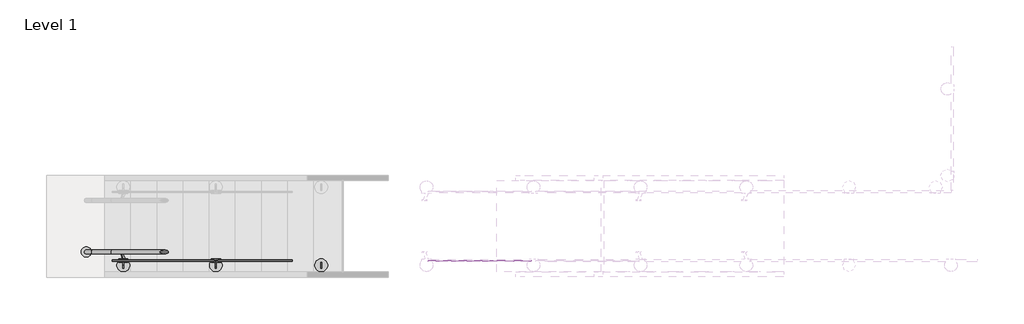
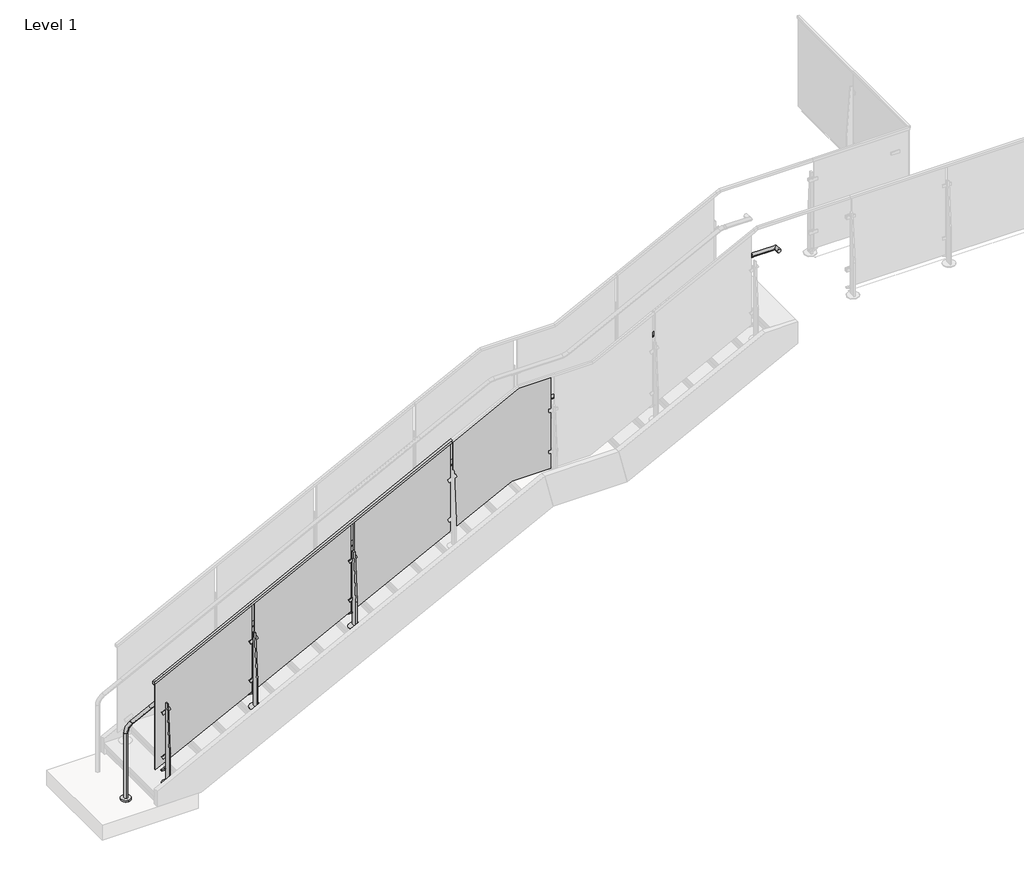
# One storey, part 5 of 37: 2 railings.
"""IFC4 building model written with IfcOpenShell, lengths in millimetres."""

import ifcopenshell
import ifcopenshell.guid

model = None  # the IFC model being written
_history = None  # IfcOwnerHistory: only IFC2X3 demands one
_inside = {}  # id of a spatial element -> (the spatial element, [elements in it])
_under = {}  # id of a project, library or spatial element -> (it, [spatial elements below it])
_declared = {}  # id of a project -> (the project, [libraries it declares])
_typed = {}  # id of a type object -> (the type object, [elements of that type])
_made_of = {}  # id of a material, layer set ... -> (it, [elements and type objects made of it])


def new_model(schema):
    """Start an empty IFC model of exactly this schema.

    Asked for "IFC4X3", IfcOpenShell would pick the latest addendum, in which some entities
    have other attributes; the version numbers below select the first issue.
    IFC2X3 requires an IfcOwnerHistory on every rooted entity: one is made here for all.
    """
    global model, _history
    if schema == "IFC4X3":
        model = ifcopenshell.file(schema_version=(4, 3, 0, 0))
    else:
        model = ifcopenshell.file(schema=schema)
    _inside.clear()
    _under.clear()
    _declared.clear()
    _typed.clear()
    _made_of.clear()
    _history = None
    if model.schema == "IFC2X3":
        org = make("IfcOrganization", Name="unknown")
        user = make(
            "IfcPersonAndOrganization",
            ThePerson=make("IfcPerson", FamilyName="unknown"),
            TheOrganization=org,
        )
        app = make(
            "IfcApplication",
            ApplicationDeveloper=org,
            Version="unknown",
            ApplicationFullName="unknown",
            ApplicationIdentifier="unknown",
        )
        _history = make(
            "IfcOwnerHistory",
            OwningUser=user,
            OwningApplication=app,
            ChangeAction="ADDED",
            CreationDate=0,
        )
    return model


def make(cls, **values):
    """One entity of the class cls with the attributes given. An attribute that is None is left unset."""
    return model.create_entity(
        cls, **{name: value for name, value in values.items() if value is not None}
    )


def rooted(cls, **values):
    """An entity with a GlobalId (a new one), such as an element, a storey or a relation."""
    return make(cls, GlobalId=ifcopenshell.guid.new(), OwnerHistory=_history, **values)


def si_unit(unit_type, name, prefix=None):
    """IfcSIUnit, for example si_unit("LENGTHUNIT", "METRE", prefix="MILLI")."""
    return make("IfcSIUnit", UnitType=unit_type, Prefix=prefix, Name=name)


def assignment(units):
    """IfcUnitAssignment: the units of a project."""
    return None if units is None else make("IfcUnitAssignment", Units=units)


def point(xyz):
    """IfcCartesianPoint."""
    return None if xyz is None else make("IfcCartesianPoint", Coordinates=xyz)


def direction(xyz):
    """IfcDirection."""
    return None if xyz is None else make("IfcDirection", DirectionRatios=xyz)


def frame(location, z_axis=None, x_axis=None):
    """IfcAxis2Placement3D, a coordinate frame: its origin and axes. An axis left out is left unset."""
    return make(
        "IfcAxis2Placement3D",
        Location=point(location),
        Axis=direction(z_axis),
        RefDirection=direction(x_axis),
    )


def frame_2d(location, x_axis=None):
    """IfcAxis2Placement2D, a coordinate frame in the plane: its origin and x axis."""
    return make(
        "IfcAxis2Placement2D", Location=point(location), RefDirection=direction(x_axis)
    )


def origin():
    """The frame at (0, 0, 0) with its axes left unset."""
    return frame((0.0, 0.0, 0.0))


def origin_with_axes():
    """The frame at (0, 0, 0) with the z axis (0, 0, 1) and the x axis (1, 0, 0) written out."""
    return frame((0.0, 0.0, 0.0), z_axis=(0.0, 0.0, 1.0), x_axis=(1.0, 0.0, 0.0))


def place(relative_to, where):
    """IfcLocalPlacement: puts the frame where relative to a parent placement (None: the world)."""
    return make(
        "IfcLocalPlacement", PlacementRelTo=relative_to, RelativePlacement=where
    )


def context(
    kind, dimensions, precision=None, world=None, true_north=None, identifier=None
):
    """IfcGeometricRepresentationContext, for example the 3D "Model" context."""
    return make(
        "IfcGeometricRepresentationContext",
        ContextIdentifier=identifier,
        ContextType=kind,
        CoordinateSpaceDimension=dimensions,
        Precision=precision,
        WorldCoordinateSystem=world,
        TrueNorth=true_north,
    )


def project(units=None, contexts=None):
    """IfcProject with its units and contexts."""
    return rooted(
        "IfcProject",
        Name="project",
        RepresentationContexts=contexts,
        UnitsInContext=assignment(units),
    )


def spatial(cls, under=None, at=None, **own):
    """A site, building, storey or space (cls), placed at a placement, below another one or the project."""
    s = rooted(cls, ObjectPlacement=at, **own)
    if under is not None:
        _under.setdefault(under.id(), (under, []))[1].append(s)
    return s


def polyline(points):
    """IfcPolyline through the points."""
    return make("IfcPolyline", Points=[point(p) for p in points])


def circle_curve(where, radius):
    """IfcCircle in the frame where."""
    return make("IfcCircle", Position=where, Radius=radius)


def ellipse_curve(where, semi_axis1, semi_axis2):
    """IfcEllipse in the frame where."""
    return make(
        "IfcEllipse", Position=where, SemiAxis1=semi_axis1, SemiAxis2=semi_axis2
    )


def trimmed(basis, trim1, trim2, sense, master):
    """IfcTrimmedCurve: the piece of a basis curve between two trims."""
    return make(
        "IfcTrimmedCurve",
        BasisCurve=basis,
        Trim1=trim1,
        Trim2=trim2,
        SenseAgreement=sense,
        MasterRepresentation=master,
    )


def segment(curve, same_sense, transition):
    """IfcCompositeCurveSegment."""
    return make(
        "IfcCompositeCurveSegment",
        Transition=transition,
        SameSense=same_sense,
        ParentCurve=curve,
    )


def composite_curve(segments, self_intersect=None):
    """IfcCompositeCurve: segments joined end to end."""
    return make("IfcCompositeCurve", Segments=segments, SelfIntersect=self_intersect)


def outline(outer, holes=None, kind="AREA"):
    """IfcArbitraryClosedProfileDef: a profile drawn as a closed curve; with holes, ...WithVoids."""
    if holes is None:
        return make("IfcArbitraryClosedProfileDef", ProfileType=kind, OuterCurve=outer)
    return make(
        "IfcArbitraryProfileDefWithVoids",
        ProfileType=kind,
        OuterCurve=outer,
        InnerCurves=holes,
    )


def extrude(swept, where, along, depth):
    """IfcExtrudedAreaSolid: the profile swept, set in the frame where, extruded along a direction by depth."""
    return make(
        "IfcExtrudedAreaSolid",
        SweptArea=swept,
        Position=where,
        ExtrudedDirection=direction(along),
        Depth=depth,
    )


def faces_of(points, faces, orient=None, outer=None):
    """IfcFace entities. A face is a list of loops; a loop is a list of indices into points, from 0.

    orient and outer hold one flag for each loop. By default every Orientation is true, the
    first loop of a face is its IfcFaceOuterBound and the others are IfcFaceBound.
    """
    made = []
    for i, loops in enumerate(faces):
        bounds = []
        for j, loop in enumerate(loops):
            is_outer = j == 0 if outer is None else outer[i][j]
            bounds.append(
                make(
                    "IfcFaceOuterBound" if is_outer else "IfcFaceBound",
                    Bound=make("IfcPolyLoop", Polygon=[points[k] for k in loop]),
                    Orientation=True if orient is None else orient[i][j],
                )
            )
        made.append(make("IfcFace", Bounds=bounds))
    return made


def faceted_brep(points, faces, orient=None, outer=None, voids=None):
    """IfcFacetedBrep: a solid bounded by flat faces; with voids (closed shells), ...WithVoids."""
    shared = [point(p) for p in points]
    hull = make("IfcClosedShell", CfsFaces=faces_of(shared, faces, orient, outer))
    if voids is None:
        return make("IfcFacetedBrep", Outer=hull)
    return make(
        "IfcFacetedBrepWithVoids",
        Outer=hull,
        Voids=[
            make(cls, CfsFaces=faces_of(shared, fs, o, b)) for cls, fs, o, b in voids
        ],
    )


def shape(context_of_items, identifier, shape_type, items):
    """IfcShapeRepresentation: the items that make up one representation, for example the "Body"."""
    return make(
        "IfcShapeRepresentation",
        ContextOfItems=context_of_items,
        RepresentationIdentifier=identifier,
        RepresentationType=shape_type,
        Items=items,
    )


def source(mapping_origin, context_of_items, identifier, shape_type, items):
    """IfcRepresentationMap: a shape defined once, which mapped items show again and again."""
    return make(
        "IfcRepresentationMap",
        MappingOrigin=mapping_origin,
        MappedRepresentation=shape(context_of_items, identifier, shape_type, items),
    )


def transform(
    local_origin,
    x_axis=None,
    y_axis=None,
    z_axis=None,
    scale=None,
    scale2=None,
    scale3=None,
    uniform=True,
):
    """IfcCartesianTransformationOperator3D, or its non-uniform kind. x_axis, y_axis, z_axis: its Axis1, 2, 3."""
    if uniform:
        return make(
            "IfcCartesianTransformationOperator3D",
            Axis1=direction(x_axis),
            Axis2=direction(y_axis),
            LocalOrigin=point(local_origin),
            Scale=scale,
            Axis3=direction(z_axis),
        )
    return make(
        "IfcCartesianTransformationOperator3DnonUniform",
        Axis1=direction(x_axis),
        Axis2=direction(y_axis),
        LocalOrigin=point(local_origin),
        Scale=scale,
        Axis3=direction(z_axis),
        Scale2=scale2,
        Scale3=scale3,
    )


def mapped(mapping_source, mapping_target):
    """IfcMappedItem: shows the shape of a source again, moved by a transform."""
    return make(
        "IfcMappedItem", MappingSource=mapping_source, MappingTarget=mapping_target
    )


def made_of(thing, what):
    """Note that an element or type object is made of a material, layer set ...; save() writes the relation."""
    if what is not None:
        _made_of.setdefault(what.id(), (what, []))[1].append(thing)
    return thing


def element(
    cls,
    number,
    at=None,
    inside=None,
    cuts=None,
    type_object=None,
    material=None,
    context=None,
    identifier="Body",
    shape_type=None,
    held_by="IfcProductDefinitionShape",
    body=None,
    shapes=None,
    **own,
):
    """One element of the class cls, such as IfcWall. Its Tag is "e" and its number.

    at: its placement. inside: the storey or other place that contains it. cuts: it is an
    opening in that element (IfcRelVoidsElement). A single representation is given by context,
    identifier, shape_type and body (its items); several are given by shapes. held_by: the class
    of the entity that holds the representations. save() writes the other relations.
    """
    e = rooted(cls, Tag="e%d" % number, ObjectPlacement=at, **own)
    if body is not None:
        shapes = [shape(context, identifier, shape_type, body)]
    if shapes is not None:
        e.Representation = make(held_by, Representations=shapes)
    if inside is not None:
        _inside.setdefault(inside.id(), (inside, []))[1].append(e)
    if cuts is not None:
        rooted(
            "IfcRelVoidsElement", RelatingBuildingElement=cuts, RelatedOpeningElement=e
        )
    if type_object is not None:
        _typed.setdefault(type_object.id(), (type_object, []))[1].append(e)
    return made_of(e, material)


def aggregate(whole, parts):
    """IfcRelAggregates: a whole, such as a stair, and the parts it consists of."""
    return rooted("IfcRelAggregates", RelatingObject=whole, RelatedObjects=parts)


def save(model, path):
    """Write the relations noted so far, then the file.

    IfcRelAggregates (storeys below a building ...), IfcRelContainedInSpatialStructure (elements
    in a storey), IfcRelDefinesByType, IfcRelAssociatesMaterial and IfcRelDeclares: one each for
    every whole, place, type object, material and project.
    """
    for whole, parts in _under.values():
        aggregate(whole, parts)
    for where, things in _inside.values():
        rooted(
            "IfcRelContainedInSpatialStructure",
            RelatedElements=things,
            RelatingStructure=where,
        )
    for kind, things in _typed.values():
        rooted("IfcRelDefinesByType", RelatedObjects=things, RelatingType=kind)
    for what, things in _made_of.values():
        rooted("IfcRelAssociatesMaterial", RelatedObjects=things, RelatingMaterial=what)
    for by, libraries in _declared.values():
        rooted("IfcRelDeclares", RelatingContext=by, RelatedDefinitions=libraries)
    model.write(path)


def plane_surface(at):
    """IfcPlane: the flat surface through the origin of the frame at, square to its z axis."""
    return make("IfcPlane", Position=at)


def cylinder_surface(at, radius):
    """IfcCylindricalSurface: all points at the distance radius from the z axis of the frame at."""
    return make("IfcCylindricalSurface", Position=at, Radius=radius)


def revolved_surface(curve, axis_point, axis_direction):
    """IfcSurfaceOfRevolution: the curve turned about the line through axis_point along axis_direction."""
    return make(
        "IfcSurfaceOfRevolution",
        SweptCurve=make("IfcArbitraryOpenProfileDef", ProfileType="CURVE", Curve=curve),
        AxisPosition=make("IfcAxis1Placement", Location=point(axis_point), Axis=direction(axis_direction)),
    )


def advanced_brep(points, edges, surfaces, faces):
    """IfcAdvancedBrep: a solid bounded by faces that lie on surfaces and meet in shared edges.

    An edge is (start, end): straight between two places in points (the first is 0);
    or (start, end, curve); or (start, end, curve, False) where it runs against its curve.
    A face is (place in surfaces, loops), or (place, loops, False) where it looks against
    its surface's normal. A loop lists edges by number (the first is 1), with a minus sign
    where the edge is run from its end to its start. The first loop is the outer one.
    """
    corners = [point(p) for p in points]
    vertices = [make("IfcVertexPoint", VertexGeometry=c) for c in corners]
    made = []
    for start, end, *more in edges:
        made.append(
            make(
                "IfcEdgeCurve",
                EdgeStart=vertices[start],
                EdgeEnd=vertices[end],
                EdgeGeometry=more[0] if more else make("IfcPolyline", Points=[corners[start], corners[end]]),
                SameSense=more[1] if len(more) > 1 else True,
            )
        )
    hull = []
    for where, loops, *sense in faces:
        bounds = []
        for j, loop in enumerate(loops):
            ring = [make("IfcOrientedEdge", EdgeElement=made[abs(k) - 1], Orientation=k > 0) for k in loop]
            bounds.append(
                make(
                    "IfcFaceOuterBound" if j == 0 else "IfcFaceBound",
                    Bound=make("IfcEdgeLoop", EdgeList=ring),
                    Orientation=True,
                )
            )
        hull.append(make("IfcAdvancedFace", Bounds=bounds, FaceSurface=surfaces[where], SameSense=sense[0] if sense else True))
    return make("IfcAdvancedBrep", Outer=make("IfcClosedShell", CfsFaces=hull))


def baluster_landing_panel_viva_solo_lower_standard_glass_98f4e7d3(model_context):
    return source(origin(), model_context, "Body", "SweptSolid", [
        extrude(outline(polyline([(-680.085, 1112.52), (5.0108793, 763.7473897), (5.0108793, -237.7228611), (-611.6294537, 76.2), (-1025.525, 76.2), (-1025.525, 1112.52), (-680.085, 1112.52)])), frame((33.3375, 0.0, 0.0), z_axis=(1.0, 0.0, 0.0), x_axis=(0.0, 1.0, 0.0)), (0.0, 0.0, 1.0), 9.525),
    ])


model = new_model("IFC4")

# Units and contexts
model_context = context("Model", 3, world=origin())
ifc_project = project(units=[si_unit("LENGTHUNIT", "METRE", prefix="MILLI")], contexts=[model_context])

# Site, building, storey
site = spatial("IfcSite", under=ifc_project)
building = spatial("IfcBuilding", under=site)
storey = spatial("IfcBuildingStorey", under=building, Name="Level 1", Elevation=0.0)

# Railings
placement = place(None, origin())
baluster_landing_panel_viva_solo_lower_standard_glass_shape = baluster_landing_panel_viva_solo_lower_standard_glass_98f4e7d3(model_context)
element("IfcRailing", 1, ObjectType="Baluster-Landing-Panel-VIVA-SOLO-Lower : Standard_Glass", at=placement, inside=storey, context=model_context, shape_type="MappedRepresentation", body=[
    mapped(baluster_landing_panel_viva_solo_lower_standard_glass_shape, transform((5248.4872811, -5623.9528686, 2120.3478261), x_axis=(0.0, 1.0, 0.0), y_axis=(-1.0, 0.0, 0.0), z_axis=(0.0, 0.0, 1.0))),
])
element("IfcRailing", 2, ObjectType="VIVA-SOLO-Glass-Core Mount-Stair_Right_Lower", at=placement, inside=storey, context=model_context, shape_type="SolidModel", body=[
    advanced_brep(
    [(8446.9515313, -5517.5903686, 3758.1697243), (8446.9515313, -5479.4903686, 3758.1697243), (8720.0015313, -5479.4903686, 3758.1697243), (8681.9015313, -5517.5903686, 3758.1697243), (8681.9015313, -5562.0403686, 3758.1697243), (8720.0015313, -5562.0403686, 3758.1697243)],
    [
        (0, 1, circle_curve(frame((8446.9515313, -5498.5403686, 3758.1697243), z_axis=(-1.0, 0.0, 0.0), x_axis=(0.0, 1.0, 0.0)), 19.05)),
        (1, 0, circle_curve(frame((8446.9515313, -5498.5403686, 3758.1697243), z_axis=(-1.0, 0.0, 0.0), x_axis=(0.0, 1.0, 0.0)), 19.05)),
        (1, 2),
        (2, 3, ellipse_curve(frame((8700.9515313, -5498.5403686, 3758.1697243), z_axis=(-0.7071067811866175, 0.7071067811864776, 0.0), x_axis=(-0.7071067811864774, -0.7071067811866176, 0.0)), 26.9407684, 19.05)),
        (3, 0),
        (3, 2, ellipse_curve(frame((8700.9515313, -5498.5403686, 3758.1697243), z_axis=(-0.7071067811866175, 0.7071067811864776, 0.0), x_axis=(-0.7071067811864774, -0.7071067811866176, 0.0)), 26.9407684, 19.05)),
        (4, 5, circle_curve(frame((8700.9515313, -5562.0403686, 3758.1697243), z_axis=(0.0, -1.0, 0.0), x_axis=(1.0, 0.0, 0.0)), 19.05)),
        (5, 4, circle_curve(frame((8700.9515313, -5562.0403686, 3758.1697243), z_axis=(0.0, -1.0, 0.0), x_axis=(1.0, 0.0, 0.0)), 19.05)),
        (2, 5),
        (4, 3),
    ],
    [
        plane_surface(frame((8446.9515313, -5498.5403686, 3758.1697243), z_axis=(-1.0, 0.0, 0.0), x_axis=(0.0, 0.0, 1.0))),
        cylinder_surface(frame((8446.9515313, -5498.5403686, 3758.1697243), z_axis=(-1.0, 0.0, 0.0), x_axis=(0.0, 1.0, 0.0)), 19.05),
        plane_surface(frame((8700.9515313, -5562.0403686, 3758.1697243), z_axis=(0.0, -1.0, 0.0), x_axis=(0.0, 0.0, 1.0))),
        cylinder_surface(frame((8700.9515313, -5498.5403686, 3758.1697243), z_axis=(0.0, 1.0, 0.0), x_axis=(1.0, 0.0, 0.0)), 19.05),
    ],
    [
        (0, [[1, 2]]),
        (1, [[-2, 3, 4, 5]]),
        (1, [[-1, -5, 6, -3]]),
        (2, [[7, 8]]),
        (3, [[-4, 9, -7, 10]]),
        (3, [[-6, -10, -8, -9]]),
    ],
),
    extrude(outline(composite_curve([segment(trimmed(circle_curve(frame_2d((1837.6886407, -5498.5403686)), 50.8), [point((1837.6886407, -5447.7403686))], [point((1837.6886407, -5549.3403686))], False, "CARTESIAN"), True, "CONTINUOUS"), segment(trimmed(circle_curve(frame_2d((1837.6886407, -5498.5403686)), 50.8), [point((1837.6886407, -5549.3403686))], [point((1837.6886407, -5447.7403686))], False, "CARTESIAN"), True, "CONTINUOUS")], self_intersect=False)), origin_with_axes(), (0.0, 0.0, 1.0), 19.05),
    advanced_brep(
    [(1837.6886407, -5517.5903686, 19.05), (1837.6886407, -5479.4903686, 19.05), (1837.6886407, -5517.5903686, 742.5735715), (1837.6886407, -5479.4903686, 742.5735715), (1893.1999897, -5479.4903686, 833.1185672), (1893.1999897, -5517.5903686, 833.1185672), (2087.6302628, -5517.5903686, 932.0862566), (2087.6302628, -5479.4903686, 932.0862566), (5237.2302628, -5517.5903686, 2535.2760764), (5237.2302628, -5479.4903686, 2535.2760764), (6015.6337944, -5479.4903686, 2919.0894504), (6015.6337944, -5517.5903686, 2919.0894504), (6738.8046315, -5517.5903686, 2919.0894504), (6738.8046315, -5479.4903686, 2919.0894504), (6802.1765267, -5479.4903686, 2934.2900813), (6802.1765267, -5517.5903686, 2934.2900813), (8399.0382648, -5517.5903686, 3747.11472), (8399.0382648, -5479.4903686, 3747.11472), (8445.1269158, -5479.4903686, 3758.1697243), (8445.1269158, -5517.5903686, 3758.1697243), (8446.9515313, -5517.5903686, 3758.1697243), (8446.9515313, -5479.4903686, 3758.1697243), (5969.5451433, -5517.5903686, 2908.0344461), (5969.5451433, -5479.4903686, 2908.0344461)],
    [
        (0, 1, circle_curve(frame((1837.6886407, -5498.5403686, 19.05), z_axis=(0.0, 0.0, -1.0), x_axis=(0.0, 1.0, 0.0)), 19.05)),
        (1, 0, circle_curve(frame((1837.6886407, -5498.5403686, 19.05), z_axis=(0.0, 0.0, -1.0), x_axis=(0.0, 1.0, 0.0)), 19.05)),
        (0, 2),
        (2, 3, circle_curve(frame((1837.6886407, -5498.5403686, 742.5735715), z_axis=(0.0, 0.0, -1.0), x_axis=(0.0, 1.0, 0.0)), 19.05)),
        (3, 1),
        (3, 2, circle_curve(frame((1837.6886407, -5498.5403686, 742.5735715), z_axis=(0.0, 0.0, -1.0), x_axis=(0.0, 1.0, 0.0)), 19.05)),
        (4, 3, circle_curve(frame((1939.2886407, -5479.4903686, 742.5735715), z_axis=(0.0, -1.0, 0.0), x_axis=(-1.0, 0.0, 0.0)), 101.6)),
        (2, 5, circle_curve(frame((1939.2886407, -5517.5903686, 742.5735715), z_axis=(0.0, 1.0, 0.0), x_axis=(-1.0, 0.0, 0.0)), 101.6)),
        (5, 4, circle_curve(frame((1893.1999897, -5498.5403686, 833.1185672), z_axis=(-0.8911909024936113, 0.0, -0.45362845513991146), x_axis=(0.0, 1.0, 0.0)), 19.05)),
        (4, 5, circle_curve(frame((1893.1999897, -5498.5403686, 833.1185672), z_axis=(-0.8911909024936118, 0.0, -0.45362845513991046), x_axis=(0.0, 1.0, 0.0)), 19.05)),
        (5, 6),
        (6, 7, circle_curve(frame((2087.6302628, -5498.5403686, 932.0862566), z_axis=(-0.891190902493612, 0.0, -0.4536284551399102), x_axis=(0.0, 1.0, 0.0)), 19.05)),
        (7, 4),
        (7, 6, circle_curve(frame((2087.6302628, -5498.5403686, 932.0862566), z_axis=(-0.891190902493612, 0.0, -0.4536284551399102), x_axis=(0.0, 1.0, 0.0)), 19.05)),
        (6, 8),
        (8, 9, circle_curve(frame((5237.2302628, -5498.5403686, 2535.2760764), z_axis=(-0.8911909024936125, 0.0, -0.45362845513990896), x_axis=(0.0, 1.0, 0.0)), 19.05)),
        (9, 7),
        (9, 8, circle_curve(frame((5237.2302628, -5498.5403686, 2535.2760764), z_axis=(-0.8911909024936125, 0.0, -0.45362845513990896), x_axis=(0.0, 1.0, 0.0)), 19.05)),
        (10, 11, circle_curve(frame((6015.6337944, -5498.5403686, 2919.0894504), z_axis=(1.0, 0.0, 0.0), x_axis=(0.0, 1.0, 0.0)), 19.05)),
        (11, 12),
        (12, 13, circle_curve(frame((6738.8046315, -5498.5403686, 2919.0894504), z_axis=(-1.0, 0.0, 0.0), x_axis=(0.0, 1.0, 0.0)), 19.05)),
        (13, 10),
        (11, 10, circle_curve(frame((6015.6337944, -5498.5403686, 2919.0894504), z_axis=(1.0, 0.0, 0.0), x_axis=(0.0, 1.0, 0.0)), 19.05)),
        (13, 12, circle_curve(frame((6738.8046315, -5498.5403686, 2919.0894504), z_axis=(-1.0, 0.0, 0.0), x_axis=(0.0, 1.0, 0.0)), 19.05)),
        (14, 15, circle_curve(frame((6802.1765267, -5498.5403686, 2934.2900813), z_axis=(0.8911909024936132, 0.0, 0.453628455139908), x_axis=(0.0, 1.0, 0.0)), 19.05)),
        (15, 16),
        (16, 17, circle_curve(frame((8399.0382648, -5498.5403686, 3747.11472), z_axis=(-0.8911909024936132, 0.0, -0.453628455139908), x_axis=(0.0, 1.0, 0.0)), 19.05)),
        (17, 14),
        (15, 14, circle_curve(frame((6802.1765267, -5498.5403686, 2934.2900813), z_axis=(0.8911909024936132, 0.0, 0.453628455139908), x_axis=(0.0, 1.0, 0.0)), 19.05)),
        (17, 16, circle_curve(frame((8399.0382648, -5498.5403686, 3747.11472), z_axis=(-0.8911909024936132, 0.0, -0.453628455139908), x_axis=(0.0, 1.0, 0.0)), 19.05)),
        (14, 13, circle_curve(frame((6738.8046315, -5479.4903686, 3058.7894504), z_axis=(0.0, 1.0, 0.0), x_axis=(0.0, 0.0, -1.0)), 139.7)),
        (12, 15, circle_curve(frame((6738.8046315, -5517.5903686, 3058.7894504), z_axis=(0.0, -1.0, 0.0), x_axis=(0.0, 0.0, -1.0)), 139.7)),
        (18, 17, circle_curve(frame((8445.1269158, -5479.4903686, 3656.5697243), z_axis=(0.0, -1.0, 0.0), x_axis=(-0.45362845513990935, 0.0, 0.8911909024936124)), 101.6)),
        (16, 19, circle_curve(frame((8445.1269158, -5517.5903686, 3656.5697243), z_axis=(0.0, 1.0, 0.0), x_axis=(-0.45362845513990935, 0.0, 0.8911909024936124)), 101.6)),
        (19, 18, circle_curve(frame((8445.1269158, -5498.5403686, 3758.1697243), z_axis=(-1.0000000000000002, 0.0, 0.0), x_axis=(0.0, 1.0000000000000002, 0.0)), 19.05)),
        (18, 19, circle_curve(frame((8445.1269158, -5498.5403686, 3758.1697243), z_axis=(-1.0000000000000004, 0.0, 0.0), x_axis=(0.0, 1.0000000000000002, 0.0)), 19.05)),
        (20, 21, circle_curve(frame((8446.9515313, -5498.5403686, 3758.1697243), z_axis=(1.0, 0.0, 0.0), x_axis=(0.0, 1.0, 0.0)), 19.05)),
        (21, 20, circle_curve(frame((8446.9515313, -5498.5403686, 3758.1697243), z_axis=(1.0, 0.0, 0.0), x_axis=(0.0, 1.0, 0.0)), 19.05)),
        (19, 20),
        (21, 18),
        (8, 22),
        (22, 23, circle_curve(frame((5969.5451433, -5498.5403686, 2908.0344461), z_axis=(-0.8911909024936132, 0.0, -0.4536284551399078), x_axis=(0.0, 1.0, 0.0)), 19.05)),
        (23, 9),
        (23, 22, circle_curve(frame((5969.5451433, -5498.5403686, 2908.0344461), z_axis=(-0.8911909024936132, 0.0, -0.4536284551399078), x_axis=(0.0, 1.0, 0.0)), 19.05)),
        (10, 23, circle_curve(frame((6015.6337944, -5479.4903686, 2817.4894504), z_axis=(0.0, -1.0, 0.0), x_axis=(-0.45362845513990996, 0.0, 0.891190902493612)), 101.6)),
        (22, 11, circle_curve(frame((6015.6337944, -5517.5903686, 2817.4894504), z_axis=(0.0, 1.0, 0.0), x_axis=(-0.45362845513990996, 0.0, 0.891190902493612)), 101.6)),
    ],
    [
        plane_surface(frame((1818.6386407, -5536.6403686, 19.05), z_axis=(0.0, 0.0, -1.0), x_axis=(1.0, 0.0, 0.0))),
        cylinder_surface(frame((1837.6886407, -5498.5403686, 19.05), z_axis=(0.0, 0.0, -1.0), x_axis=(0.0, 1.0, 0.0)), 19.05),
        revolved_surface(trimmed(ellipse_curve(frame((1837.6886407, -5498.5403686, 742.5735715), z_axis=(0.0, 0.0, -1.0), x_axis=(0.0, 1.0, 0.0)), 19.05, 19.05), [point((1837.6886407, -5517.5903686, 742.5735715))], [point((1837.6886407, -5479.4903686, 742.5735715))], True, "CARTESIAN"), (1939.2886407, -5498.5403686, 742.5735715), (0.0, 1.0, 0.0)),
        revolved_surface(trimmed(ellipse_curve(frame((1837.6886407, -5498.5403686, 742.5735715), z_axis=(0.0, 0.0, -1.0), x_axis=(0.0, 1.0, 0.0)), 19.05, 19.05), [point((1837.6886407, -5479.4903686, 742.5735715))], [point((1837.6886407, -5517.5903686, 742.5735715))], True, "CARTESIAN"), (1939.2886407, -5498.5403686, 742.5735715), (0.0, 1.0, 0.0)),
        cylinder_surface(frame((1893.1999897, -5498.5403686, 833.1185672), z_axis=(-0.891190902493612, 0.0, -0.4536284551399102), x_axis=(0.0, 1.0, 0.0)), 19.05),
        cylinder_surface(frame((2087.6302628, -5498.5403686, 932.0862566), z_axis=(-0.8911909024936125, 0.0, -0.45362845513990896), x_axis=(0.0, 1.0, 0.0)), 19.05),
        cylinder_surface(frame((6015.6337944, -5498.5403686, 2919.0894504), z_axis=(-1.0, 0.0, 0.0), x_axis=(0.0, 1.0, 0.0)), 19.05),
        cylinder_surface(frame((6802.1765267, -5498.5403686, 2934.2900813), z_axis=(-0.8911909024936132, 0.0, -0.453628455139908), x_axis=(0.0, 1.0, 0.0)), 19.05),
        revolved_surface(trimmed(ellipse_curve(frame((6738.8046315, -5498.5403686, 2919.0894504), z_axis=(-1.0, 0.0, 0.0), x_axis=(0.0, 1.0, 0.0)), 19.05, 19.05), [point((6738.8046315, -5517.5903686, 2919.0894504))], [point((6738.8046315, -5479.4903686, 2919.0894504))], True, "CARTESIAN"), (6738.8046315, -5498.5403686, 3058.7894504), (0.0, -1.0, 0.0)),
        revolved_surface(trimmed(ellipse_curve(frame((6738.8046315, -5498.5403686, 2919.0894504), z_axis=(-1.0, 0.0, 0.0), x_axis=(0.0, 1.0, 0.0)), 19.05, 19.05), [point((6738.8046315, -5479.4903686, 2919.0894504))], [point((6738.8046315, -5517.5903686, 2919.0894504))], True, "CARTESIAN"), (6738.8046315, -5498.5403686, 3058.7894504), (0.0, -1.0, 0.0)),
        revolved_surface(trimmed(ellipse_curve(frame((8399.0382648, -5498.5403686, 3747.11472), z_axis=(-0.8911909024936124, 0.0, -0.4536284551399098), x_axis=(0.0, 1.0000000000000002, 0.0)), 19.05, 19.05), [point((8399.0382648, -5517.5903686, 3747.11472))], [point((8399.0382648, -5479.4903686, 3747.11472))], True, "CARTESIAN"), (8445.1269158, -5498.5403686, 3656.5697243), (0.0, 1.0000000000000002, 0.0)),
        revolved_surface(trimmed(ellipse_curve(frame((8399.0382648, -5498.5403686, 3747.11472), z_axis=(-0.8911909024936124, 0.0, -0.4536284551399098), x_axis=(0.0, 1.0000000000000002, 0.0)), 19.05, 19.05), [point((8399.0382648, -5479.4903686, 3747.11472))], [point((8399.0382648, -5517.5903686, 3747.11472))], True, "CARTESIAN"), (8445.1269158, -5498.5403686, 3656.5697243), (0.0, 1.0000000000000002, 0.0)),
        plane_surface(frame((8446.9515313, -5498.5403686, 3777.2197243), z_axis=(1.0, 0.0, 0.0), x_axis=(0.0, 1.0, 0.0))),
        cylinder_surface(frame((8445.1269158, -5498.5403686, 3758.1697243), z_axis=(-1.0, 0.0, 0.0), x_axis=(0.0, 1.0, 0.0)), 19.05),
        cylinder_surface(frame((5237.2302628, -5498.5403686, 2535.2760764), z_axis=(-0.8911909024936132, 0.0, -0.4536284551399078), x_axis=(0.0, 1.0, 0.0)), 19.05),
        revolved_surface(trimmed(ellipse_curve(frame((5969.5451433, -5498.5403686, 2908.0344461), z_axis=(-0.8911909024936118, 0.0, -0.4536284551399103), x_axis=(0.0, 1.0, 0.0)), 19.05, 19.05), [point((5969.5451433, -5517.5903686, 2908.0344461))], [point((5969.5451433, -5479.4903686, 2908.0344461))], True, "CARTESIAN"), (6015.6337944, -5498.5403686, 2817.4894504), (0.0, 1.0, 0.0)),
        revolved_surface(trimmed(ellipse_curve(frame((5969.5451433, -5498.5403686, 2908.0344461), z_axis=(-0.8911909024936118, 0.0, -0.4536284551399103), x_axis=(0.0, 1.0, 0.0)), 19.05, 19.05), [point((5969.5451433, -5479.4903686, 2908.0344461))], [point((5969.5451433, -5517.5903686, 2908.0344461))], True, "CARTESIAN"), (6015.6337944, -5498.5403686, 2817.4894504), (0.0, 1.0, 0.0)),
    ],
    [
        (0, [[1, 2]]),
        (1, [[-1, 3, 4, 5]]),
        (1, [[-2, -5, 6, -3]]),
        (2, [[7, -4, 8, 9]]),
        (3, [[-8, -6, -7, 10]]),
        (4, [[-9, 11, 12, 13]]),
        (4, [[-10, -13, 14, -11]]),
        (5, [[-12, 15, 16, 17]]),
        (5, [[-14, -17, 18, -15]]),
        (6, [[19, 20, 21, 22]]),
        (6, [[23, -22, 24, -20]]),
        (7, [[25, 26, 27, 28]]),
        (7, [[29, -28, 30, -26]]),
        (8, [[31, -21, 32, -25]]),
        (9, [[-32, -24, -31, -29]]),
        (10, [[33, -27, 34, 35]]),
        (11, [[-34, -30, -33, 36]]),
        (12, [[37, 38]]),
        (13, [[-35, 39, -38, 40]]),
        (13, [[-36, -40, -37, -39]]),
        (14, [[-16, 41, 42, 43]]),
        (14, [[-18, -43, 44, -41]]),
        (15, [[45, -42, 46, -19]]),
        (16, [[-46, -44, -45, -23]]),
    ],
),
    faceted_brep([(2078.9886407, -5595.3778686, 1279.2634433), (2078.9886407, -5573.1528686, 1279.2634433), (2078.9886407, -5573.1528686, 1250.7622547), (2078.9886407, -5577.9153686, 1250.7622547), (2078.9886407, -5577.9153686, 1273.9194705), (2078.9886407, -5590.6153686, 1273.9194705), (2078.9886407, -5590.6153686, 1250.7622547), (2078.9886407, -5595.3778686, 1250.7622547), (5228.5886407, -5595.3778686, 2882.453263), (5228.5886407, -5595.3778686, 2853.9520744), (5228.5886407, -5590.6153686, 2853.9520744), (5228.5886407, -5590.6153686, 2877.1092902), (5228.5886407, -5577.9153686, 2877.1092902), (5228.5886407, -5577.9153686, 2853.9520744), (5228.5886407, -5573.1528686, 2853.9520744), (5228.5886407, -5573.1528686, 2882.453263)], [[[0, 1, 2, 3, 4, 5, 6, 7]], [[8, 9, 10, 11, 12, 13, 14, 15]], [[1, 0, 8, 15]], [[2, 1, 15, 14]], [[3, 2, 14, 13]], [[4, 3, 13, 12]], [[5, 4, 12, 11]], [[6, 5, 11, 10]], [[7, 6, 10, 9]], [[0, 7, 9, 8]]]),
    extrude(outline(polyline([(2868.4999629, 5212.038354), (2351.3419566, 4196.038354), (1351.5601273, 4196.038354), (1868.7181336, 5212.038354), (2868.4999629, 5212.038354)])), frame((0.0, -5590.6153686, 0.0), z_axis=(0.0, 1.0, 0.0), x_axis=(0.0, 0.0, 1.0)), (0.0, 0.0, 1.0), 12.7),
    extrude(outline(polyline([(-12.7, 0.0), (-12.7, 3.175), (50.8, 65.0875), (61.9125, 65.0875), (61.9125, 34.925), (58.7375, 34.925), (0.0, 3.175), (0.0, 0.0), (-12.7, 0.0)])), frame((4151.0933347, -5506.4778686, 1962.9790724), z_axis=(0.8987940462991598, 0.0, 0.4383711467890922), x_axis=(0.0, -1.0, 0.0)), (0.0, 0.0, 1.0), 12.7),
    extrude(outline(polyline([(-5600.1403686, 2017.8566565), (-5600.1403686, 1192.6956522), (-5663.6403686, 1192.6956522), (-5663.6403686, 1484.4566565), (-5625.5403686, 2017.8566565), (-5600.1403686, 2017.8566565)])), frame((4172.3719741, 0.0, 0.0), z_axis=(1.0, 0.0, 0.0), x_axis=(0.0, 1.0, 0.0)), (0.0, 0.0, 1.0), 12.7),
    extrude(outline(polyline([(0.0, -88.9), (0.0, 0.0), (9.525, 0.0), (9.525, -88.9), (0.0, -88.9)])), frame((4225.6325114, -5568.3903686, 1926.0346514), z_axis=(-0.4383711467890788, 0.0, 0.8987940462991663), x_axis=(0.0, -1.0, 0.0)), (0.0, 0.0, 1.0), 31.75),
    extrude(outline(polyline([(0.0, -88.9), (0.0, 0.0), (9.525, 0.0), (9.525, -88.9), (0.0, -88.9)])), frame((4225.6325114, -5590.6153686, 1926.0346514), z_axis=(-0.4383711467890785, 0.0, 0.8987940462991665), x_axis=(0.0, -1.0, 0.0)), (0.0, 0.0, 1.0), 31.75),
    extrude(outline(polyline([(0.0, -88.9), (0.0, 0.0), (9.525, 0.0), (9.525, -88.9), (0.0, -88.9)])), frame((4225.6325114, -5590.6153686, 1488.6985595), z_axis=(-0.43837114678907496, 0.0, 0.8987940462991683), x_axis=(0.0, -1.0, 0.0)), (0.0, 0.0, 1.0), 31.75),
    extrude(outline(polyline([(0.0, -88.9), (0.0, 0.0), (9.525, 0.0), (9.525, -88.9), (0.0, -88.9)])), frame((4225.6325114, -5568.3903686, 1488.6985595), z_axis=(-0.4383711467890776, 0.0, 0.8987940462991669), x_axis=(0.0, -1.0, 0.0)), (0.0, 0.0, 1.0), 31.75),
    extrude(outline(polyline([(1355.2098744, 4214.4838968), (1360.9172166, 4211.70024), (1321.9460217, 4131.7974493), (1316.2386795, 4134.5811061), (1316.0275211, 4184.1392511), (1355.2098744, 4214.4838968)])), frame((0.0, -5590.6153686, 0.0), z_axis=(0.0, 1.0, 0.0), x_axis=(0.0, 0.0, 1.0)), (0.0, 0.0, 1.0), 12.7),
    extrude(outline(composite_curve([segment(polyline([(0.0, 0.0), (2.8057896, 0.0)]), True, "CONTINUOUS"), segment(trimmed(circle_curve(frame_2d((26.8875079, 8.0765616)), 25.4), [point((2.8057896, 0.0))], [point((8.7901893, -9.7460941))], True, "CARTESIAN"), True, "CONTINUOUS"), segment(polyline([(8.7901893, -9.7460941), (6.4034747, -11.1240644)]), True, "CONTINUOUS"), segment(trimmed(circle_curve(frame_2d((24.5007934, 6.6985914)), 25.4), [point((6.4034747, -11.1240644))], [point((0.0, 0.0))], False, "CARTESIAN"), True, "CONTINUOUS")], self_intersect=False)), frame((4135.1722172, -5506.577115, 1952.1658736), z_axis=(0.8987940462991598, 0.0, 0.4383711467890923), x_axis=(-0.37964054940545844, 0.500000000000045, 0.7783784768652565)), (0.0, 0.0, 1.0), 50.8),
    extrude(outline(composite_curve([segment(trimmed(circle_curve(frame_2d((4178.7219741, -5631.8903686)), 63.5), [point((4178.7219741, -5695.3903686))], [point((4178.7219741, -5568.3903686))], False, "CARTESIAN"), True, "CONTINUOUS"), segment(trimmed(circle_curve(frame_2d((4178.7219741, -5631.8903686)), 63.5), [point((4178.7219741, -5568.3903686))], [point((4178.7219741, -5695.3903686))], False, "CARTESIAN"), True, "CONTINUOUS")], self_intersect=False)), frame((0.0, 0.0, 1192.6956522), z_axis=(0.0, 0.0, 1.0), x_axis=(1.0, 0.0, 0.0)), (0.0, 0.0, 1.0), 3.175),
    extrude(outline(composite_curve([segment(trimmed(circle_curve(frame_2d((1484.5416522, 4178.7219741)), 6.35), [point((1484.5416522, 4185.0719741))], [point((1484.5416522, 4172.3719741))], False, "CARTESIAN"), True, "CONTINUOUS"), segment(trimmed(circle_curve(frame_2d((1484.5416522, 4178.7219741)), 6.35), [point((1484.5416522, 4172.3719741))], [point((1484.5416522, 4185.0719741))], False, "CARTESIAN"), True, "CONTINUOUS")], self_intersect=False)), frame((0.0, -5590.6153686, 0.0), z_axis=(0.0, 1.0, 0.0), x_axis=(0.0, 0.0, 1.0)), (0.0, 0.0, 1.0), 12.7),
    extrude(outline(composite_curve([segment(trimmed(circle_curve(frame_2d((1920.8174094, 4178.7219741)), 6.35), [point((1920.8174094, 4185.0719741))], [point((1920.8174094, 4172.3719741))], False, "CARTESIAN"), True, "CONTINUOUS"), segment(trimmed(circle_curve(frame_2d((1920.8174094, 4178.7219741)), 6.35), [point((1920.8174094, 4172.3719741))], [point((1920.8174094, 4185.0719741))], False, "CARTESIAN"), True, "CONTINUOUS")], self_intersect=False)), frame((0.0, -5590.6153686, 0.0), z_axis=(0.0, 1.0, 0.0), x_axis=(0.0, 0.0, 1.0)), (0.0, 0.0, 1.0), 12.7),
    extrude(outline(composite_curve([segment(trimmed(circle_curve(frame_2d((1327.2225111, 4178.7219741)), 11.1125), [point((1327.2225111, 4189.8344741))], [point((1327.2225111, 4167.6094741))], False, "CARTESIAN"), True, "CONTINUOUS"), segment(trimmed(circle_curve(frame_2d((1327.2225111, 4178.7219741)), 11.1125), [point((1327.2225111, 4167.6094741))], [point((1327.2225111, 4189.8344741))], False, "CARTESIAN"), True, "CONTINUOUS")], self_intersect=False)), frame((0.0, -5600.1403686, 0.0), z_axis=(0.0, 1.0, 0.0), x_axis=(0.0, 0.0, 1.0)), (0.0, 0.0, 1.0), 25.4),
    extrude(outline(polyline([(2334.1033564, 4162.1716873), (1816.94535, 3146.1716873), (821.4731707, 3146.1716873), (1338.6311771, 4162.1716873), (2334.1033564, 4162.1716873)])), frame((0.0, -5590.6153686, 0.0), z_axis=(0.0, 1.0, 0.0), x_axis=(0.0, 0.0, 1.0)), (0.0, 0.0, 1.0), 12.7),
    extrude(outline(polyline([(-12.7, 0.0), (-12.7, 3.175), (50.8, 65.0875), (61.9125, 65.0875), (61.9125, 34.925), (58.7375, 34.925), (0.0, 3.175), (0.0, 0.0), (-12.7, 0.0)])), frame((3101.226668, -5506.4778686, 1428.5824658), z_axis=(0.8987940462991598, 0.0, 0.4383711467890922), x_axis=(0.0, -1.0, 0.0)), (0.0, 0.0, 1.0), 12.7),
    extrude(outline(polyline([(-5600.1403686, 1483.4600499), (-5600.1403686, 662.6086957), (-5663.6403686, 662.6086957), (-5663.6403686, 950.0600499), (-5625.5403686, 1483.4600499), (-5600.1403686, 1483.4600499)])), frame((3122.5053074, 0.0, 0.0), z_axis=(1.0, 0.0, 0.0), x_axis=(0.0, 1.0, 0.0)), (0.0, 0.0, 1.0), 12.7),
    extrude(outline(polyline([(0.0, -88.9), (0.0, 0.0), (9.525, 0.0), (9.525, -88.9), (0.0, -88.9)])), frame((3175.7658447, -5568.3903686, 1391.6380448), z_axis=(-0.4383711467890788, 0.0, 0.8987940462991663), x_axis=(0.0, -1.0, 0.0)), (0.0, 0.0, 1.0), 31.75),
    extrude(outline(polyline([(0.0, -88.9), (0.0, 0.0), (9.525, 0.0), (9.525, -88.9), (0.0, -88.9)])), frame((3175.7658447, -5590.6153686, 1391.6380448), z_axis=(-0.4383711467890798, 0.0, 0.8987940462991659), x_axis=(0.0, -1.0, 0.0)), (0.0, 0.0, 1.0), 31.75),
    extrude(outline(polyline([(0.0, -88.9), (0.0, 0.0), (9.525, 0.0), (9.525, -88.9), (0.0, -88.9)])), frame((3175.7658447, -5590.6153686, 958.611603), z_axis=(-0.43837114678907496, 0.0, 0.8987940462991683), x_axis=(0.0, -1.0, 0.0)), (0.0, 0.0, 1.0), 31.75),
    extrude(outline(polyline([(0.0, -88.9), (0.0, 0.0), (9.525, 0.0), (9.525, -88.9), (0.0, -88.9)])), frame((3175.7658447, -5568.3903686, 958.611603), z_axis=(-0.4383711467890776, 0.0, 0.8987940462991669), x_axis=(0.0, -1.0, 0.0)), (0.0, 0.0, 1.0), 31.75),
    extrude(outline(polyline([(825.1229179, 3164.6172301), (830.8302601, 3161.8335734), (791.8590651, 3081.9307826), (786.151723, 3084.7144394), (785.9405646, 3134.2725845), (825.1229179, 3164.6172301)])), frame((0.0, -5590.6153686, 0.0), z_axis=(0.0, 1.0, 0.0), x_axis=(0.0, 0.0, 1.0)), (0.0, 0.0, 1.0), 12.7),
    extrude(outline(composite_curve([segment(polyline([(0.0, 0.0), (2.8057896, 0.0)]), True, "CONTINUOUS"), segment(trimmed(circle_curve(frame_2d((26.8875078, 8.0765616)), 25.4), [point((2.8057896, 0.0))], [point((8.7901892, -9.7460941))], True, "CARTESIAN"), True, "CONTINUOUS"), segment(polyline([(8.7901892, -9.7460941), (6.4034746, -11.1240644)]), True, "CONTINUOUS"), segment(trimmed(circle_curve(frame_2d((24.5007933, 6.6985913)), 25.4), [point((6.4034746, -11.1240644))], [point((0.0, 0.0))], False, "CARTESIAN"), True, "CONTINUOUS")], self_intersect=False)), frame((3085.3055505, -5506.577115, 1417.7692671), z_axis=(0.8987940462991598, 0.0, 0.4383711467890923), x_axis=(-0.37964054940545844, 0.500000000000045, 0.7783784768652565)), (0.0, 0.0, 1.0), 50.8),
    extrude(outline(composite_curve([segment(trimmed(circle_curve(frame_2d((3128.8553074, -5631.8903686)), 63.5), [point((3128.8553074, -5695.3903686))], [point((3128.8553074, -5568.3903686))], False, "CARTESIAN"), True, "CONTINUOUS"), segment(trimmed(circle_curve(frame_2d((3128.8553074, -5631.8903686)), 63.5), [point((3128.8553074, -5568.3903686))], [point((3128.8553074, -5695.3903686))], False, "CARTESIAN"), True, "CONTINUOUS")], self_intersect=False)), frame((0.0, 0.0, 662.6086957), z_axis=(0.0, 0.0, 1.0), x_axis=(1.0, 0.0, 0.0)), (0.0, 0.0, 1.0), 3.175),
    extrude(outline(composite_curve([segment(trimmed(circle_curve(frame_2d((954.4546957, 3128.8553074)), 6.35), [point((954.4546957, 3135.2053074))], [point((954.4546957, 3122.5053074))], False, "CARTESIAN"), True, "CONTINUOUS"), segment(trimmed(circle_curve(frame_2d((954.4546957, 3128.8553074)), 6.35), [point((954.4546957, 3122.5053074))], [point((954.4546957, 3135.2053074))], False, "CARTESIAN"), True, "CONTINUOUS")], self_intersect=False)), frame((0.0, -5590.6153686, 0.0), z_axis=(0.0, 1.0, 0.0), x_axis=(0.0, 0.0, 1.0)), (0.0, 0.0, 1.0), 12.7),
    extrude(outline(composite_curve([segment(trimmed(circle_curve(frame_2d((1386.4208028, 3128.8553074)), 6.35), [point((1386.4208028, 3135.2053074))], [point((1386.4208028, 3122.5053074))], False, "CARTESIAN"), True, "CONTINUOUS"), segment(trimmed(circle_curve(frame_2d((1386.4208028, 3128.8553074)), 6.35), [point((1386.4208028, 3122.5053074))], [point((1386.4208028, 3135.2053074))], False, "CARTESIAN"), True, "CONTINUOUS")], self_intersect=False)), frame((0.0, -5590.6153686, 0.0), z_axis=(0.0, 1.0, 0.0), x_axis=(0.0, 0.0, 1.0)), (0.0, 0.0, 1.0), 12.7),
    extrude(outline(composite_curve([segment(trimmed(circle_curve(frame_2d((797.1355546, 3128.8553074)), 11.1125), [point((797.1355546, 3139.9678074))], [point((797.1355546, 3117.7428074))], False, "CARTESIAN"), True, "CONTINUOUS"), segment(trimmed(circle_curve(frame_2d((797.1355546, 3128.8553074)), 11.1125), [point((797.1355546, 3117.7428074))], [point((797.1355546, 3139.9678074))], False, "CARTESIAN"), True, "CONTINUOUS")], self_intersect=False)), frame((0.0, -5600.1403686, 0.0), z_axis=(0.0, 1.0, 0.0), x_axis=(0.0, 0.0, 1.0)), (0.0, 0.0, 1.0), 25.4),
    extrude(outline(polyline([(1799.7067498, 3112.3050207), (1282.5487434, 2096.3050207), (291.3862142, 2096.3050207), (808.5442206, 3112.3050207), (1799.7067498, 3112.3050207)])), frame((0.0, -5590.6153686, 0.0), z_axis=(0.0, 1.0, 0.0), x_axis=(0.0, 0.0, 1.0)), (0.0, 0.0, 1.0), 12.7),
    extrude(outline(polyline([(-12.7, 0.0), (-12.7, 3.175), (50.8, 65.0874999), (61.9125, 65.0874999), (61.9125, 34.9249999), (58.7375, 34.9249999), (0.0, 3.175), (0.0, 0.0), (-12.7, 0.0)])), frame((2178.3600014, -5506.4778686, 958.83061), z_axis=(0.8987940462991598, 0.0, 0.4383711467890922), x_axis=(0.0, -1.0, 0.0)), (0.0, 0.0, 1.0), 12.7),
    extrude(outline(polyline([(-5600.1403686, 1013.7081941), (-5600.1403686, 132.5217391), (-5663.6403686, 132.5217391), (-5663.6403686, 480.3081941), (-5625.5403686, 1013.7081941), (-5600.1403686, 1013.7081941)])), frame((2199.6386407, 0.0, 0.0), z_axis=(1.0, 0.0, 0.0), x_axis=(0.0, 1.0, 0.0)), (0.0, 0.0, 1.0), 12.7),
    extrude(outline(polyline([(0.0, -88.9), (0.0, 0.0), (9.525, 0.0), (9.525, -88.9), (0.0, -88.9)])), frame((2252.899178, -5568.3903686, 921.886189), z_axis=(-0.4383711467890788, 0.0, 0.8987940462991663), x_axis=(0.0, -1.0, 0.0)), (0.0, 0.0, 1.0), 31.75),
    extrude(outline(polyline([(0.0, -88.9), (0.0, 0.0), (9.525, 0.0), (9.525, -88.9), (0.0, -88.9)])), frame((2252.899178, -5590.6153686, 921.886189), z_axis=(-0.4383711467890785, 0.0, 0.8987940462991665), x_axis=(0.0, -1.0, 0.0)), (0.0, 0.0, 1.0), 31.75),
    extrude(outline(polyline([(0.0, -88.9), (0.0, 0.0), (9.525, 0.0), (9.525, -88.9), (0.0, -88.9)])), frame((2252.899178, -5590.6153686, 428.5246464), z_axis=(-0.4383711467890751, 0.0, 0.8987940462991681), x_axis=(0.0, -1.0, 0.0)), (0.0, 0.0, 1.0), 31.75),
    extrude(outline(polyline([(0.0, -88.9), (0.0, 0.0), (9.525, 0.0), (9.525, -88.9), (0.0, -88.9)])), frame((2252.899178, -5568.3903686, 428.5246464), z_axis=(-0.4383711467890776, 0.0, 0.8987940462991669), x_axis=(0.0, -1.0, 0.0)), (0.0, 0.0, 1.0), 31.75),
    extrude(outline(polyline([(295.0359614, 2241.7505635), (300.7433036, 2238.9669067), (261.7721086, 2159.064116), (256.0647664, 2161.8477728), (255.8536081, 2211.4059178), (295.0359614, 2241.7505635)])), frame((0.0, -5590.6153686, 0.0), z_axis=(0.0, 1.0, 0.0), x_axis=(0.0, 0.0, 1.0)), (0.0, 0.0, 1.0), 12.7),
    extrude(outline(composite_curve([segment(polyline([(0.0, 0.0), (2.8057896, 0.0)]), True, "CONTINUOUS"), segment(trimmed(circle_curve(frame_2d((26.8875079, 8.0765616)), 25.4), [point((2.8057896, 0.0))], [point((8.7901892, -9.7460941))], True, "CARTESIAN"), True, "CONTINUOUS"), segment(polyline([(8.7901892, -9.7460941), (6.4034746, -11.1240644)]), True, "CONTINUOUS"), segment(trimmed(circle_curve(frame_2d((24.5007933, 6.6985913)), 25.4), [point((6.4034746, -11.1240644))], [point((0.0, 0.0))], False, "CARTESIAN"), True, "CONTINUOUS")], self_intersect=False)), frame((2162.4388838, -5506.577115, 948.0174113), z_axis=(0.8987940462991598, 0.0, 0.4383711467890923), x_axis=(-0.37964054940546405, 0.5000000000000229, 0.7783784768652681)), (0.0, 0.0, 1.0), 50.8),
    extrude(outline(composite_curve([segment(trimmed(circle_curve(frame_2d((2205.9886407, -5631.8903686)), 63.5), [point((2205.9886407, -5695.3903686))], [point((2205.9886407, -5568.3903686))], False, "CARTESIAN"), True, "CONTINUOUS"), segment(trimmed(circle_curve(frame_2d((2205.9886407, -5631.8903686)), 63.5), [point((2205.9886407, -5568.3903686))], [point((2205.9886407, -5695.3903686))], False, "CARTESIAN"), True, "CONTINUOUS")], self_intersect=False)), frame((0.0, 0.0, 132.5217391), z_axis=(0.0, 0.0, 1.0), x_axis=(1.0, 0.0, 0.0)), (0.0, 0.0, 1.0), 3.175),
    extrude(outline(composite_curve([segment(trimmed(circle_curve(frame_2d((424.3677391, 2205.9886407)), 6.35), [point((424.3677391, 2212.3386407))], [point((424.3677391, 2199.6386407))], False, "CARTESIAN"), True, "CONTINUOUS"), segment(trimmed(circle_curve(frame_2d((424.3677391, 2205.9886407)), 6.35), [point((424.3677391, 2199.6386407))], [point((424.3677391, 2212.3386407))], False, "CARTESIAN"), True, "CONTINUOUS")], self_intersect=False)), frame((0.0, -5590.6153686, 0.0), z_axis=(0.0, 1.0, 0.0), x_axis=(0.0, 0.0, 1.0)), (0.0, 0.0, 1.0), 12.7),
    extrude(outline(composite_curve([segment(trimmed(circle_curve(frame_2d((916.668947, 2205.9886407)), 6.35), [point((916.668947, 2212.3386407))], [point((916.668947, 2199.6386407))], False, "CARTESIAN"), True, "CONTINUOUS"), segment(trimmed(circle_curve(frame_2d((916.668947, 2205.9886407)), 6.35), [point((916.668947, 2199.6386407))], [point((916.668947, 2212.3386407))], False, "CARTESIAN"), True, "CONTINUOUS")], self_intersect=False)), frame((0.0, -5590.6153686, 0.0), z_axis=(0.0, 1.0, 0.0), x_axis=(0.0, 0.0, 1.0)), (0.0, 0.0, 1.0), 12.7),
    extrude(outline(composite_curve([segment(trimmed(circle_curve(frame_2d((267.048598, 2205.9886407)), 11.1125), [point((267.048598, 2217.1011407))], [point((267.048598, 2194.8761407))], False, "CARTESIAN"), True, "CONTINUOUS"), segment(trimmed(circle_curve(frame_2d((267.048598, 2205.9886407)), 11.1125), [point((267.048598, 2194.8761407))], [point((267.048598, 2217.1011407))], False, "CARTESIAN"), True, "CONTINUOUS")], self_intersect=False)), frame((0.0, -5600.1403686, 0.0), z_axis=(0.0, 1.0, 0.0), x_axis=(0.0, 0.0, 1.0)), (0.0, 0.0, 1.0), 25.4),
])

save(model, "model.ifc")
